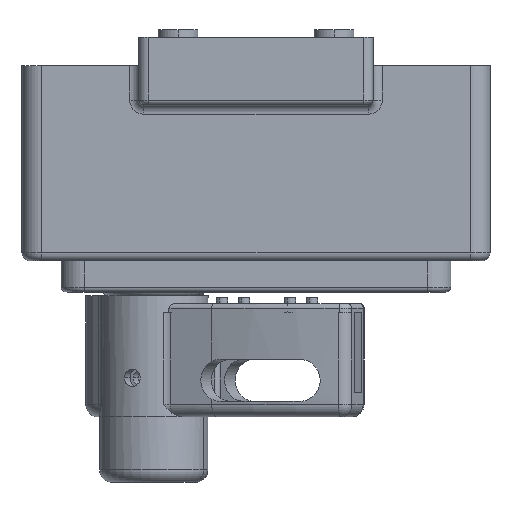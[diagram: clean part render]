
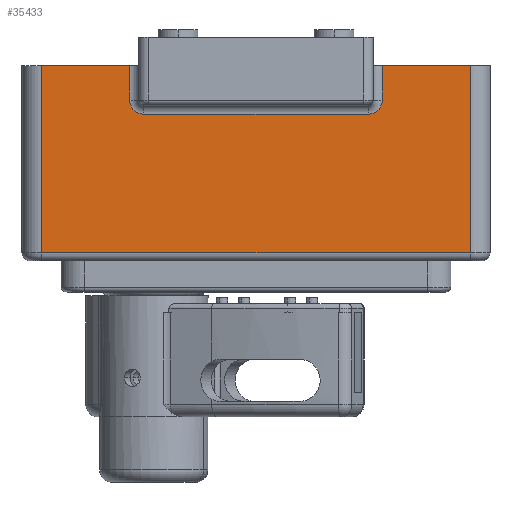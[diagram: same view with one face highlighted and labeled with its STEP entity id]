
A CAD part, front view. The second image highlights one B-rep face of the part: STEP entity #35433.
In plain terms, the highlighted planar face has unit normal (0, -1, 0).
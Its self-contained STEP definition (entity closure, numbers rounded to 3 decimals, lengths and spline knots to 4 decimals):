
#10=DIRECTION('',(-1.,0.,0.));
#11=VECTOR('',#10,0.565);
#12=CARTESIAN_POINT('',(0.69,0.583,1.45));
#13=LINE('',#12,#11);
#108=DIRECTION('',(-1.,0.,0.));
#109=VECTOR('',#108,0.565);
#110=CARTESIAN_POINT('',(2.875,0.583,1.45));
#111=LINE('',#110,#109);
#144=DIRECTION('',(0.,0.,-1.));
#145=VECTOR('',#144,0.22);
#146=CARTESIAN_POINT('',(0.69,0.583,1.45));
#147=LINE('',#146,#145);
#153=CARTESIAN_POINT('',(0.78,0.583,1.23));
#154=DIRECTION('',(0.,-1.,0.));
#155=DIRECTION('',(-1.,0.,0.));
#156=AXIS2_PLACEMENT_3D('',#153,#154,#155);
#168=DIRECTION('',(0.,0.,1.));
#169=VECTOR('',#168,0.22);
#170=CARTESIAN_POINT('',(2.31,0.583,1.23));
#171=LINE('',#170,#169);
#191=CARTESIAN_POINT('',(2.22,0.583,1.23));
#192=DIRECTION('',(0.,1.,0.));
#193=DIRECTION('',(1.,0.,0.));
#194=AXIS2_PLACEMENT_3D('',#191,#192,#193);
#196=DIRECTION('',(1.,0.,0.));
#197=VECTOR('',#196,1.44);
#198=CARTESIAN_POINT('',(0.78,0.583,1.14));
#199=LINE('',#198,#197);
#822=DIRECTION('',(0.,0.,1.));
#823=VECTOR('',#822,1.2);
#824=CARTESIAN_POINT('',(2.875,0.583,0.25));
#825=LINE('',#824,#823);
#24064=DIRECTION('',(0.,0.,1.));
#24065=VECTOR('',#24064,1.2);
#24066=CARTESIAN_POINT('',(0.125,0.583,0.25));
#24067=LINE('',#24066,#24065);
#24087=DIRECTION('',(-1.,0.,0.));
#24088=VECTOR('',#24087,2.75);
#24089=CARTESIAN_POINT('',(2.875,0.583,0.25));
#24090=LINE('',#24089,#24088);
#28605=CARTESIAN_POINT('',(0.125,0.583,1.45));
#28607=VERTEX_POINT('',#28605);
#28616=CARTESIAN_POINT('',(2.875,0.583,1.45));
#28618=VERTEX_POINT('',#28616);
#28650=CARTESIAN_POINT('',(0.125,0.583,0.25));
#28651=VERTEX_POINT('',#28650);
#28654=CARTESIAN_POINT('',(2.875,0.583,0.25));
#28655=VERTEX_POINT('',#28654);
#28716=CARTESIAN_POINT('',(2.31,0.583,1.23));
#28717=CARTESIAN_POINT('',(2.31,0.583,1.45));
#28718=VERTEX_POINT('',#28716);
#28719=VERTEX_POINT('',#28717);
#28724=CARTESIAN_POINT('',(0.78,0.583,1.14));
#28725=CARTESIAN_POINT('',(2.22,0.583,1.14));
#28726=VERTEX_POINT('',#28724);
#28727=VERTEX_POINT('',#28725);
#28732=CARTESIAN_POINT('',(0.69,0.583,1.23));
#28733=VERTEX_POINT('',#28732);
#28738=CARTESIAN_POINT('',(0.69,0.583,1.45));
#28739=VERTEX_POINT('',#28738);
#35410=CARTESIAN_POINT('',(3.,0.583,1.45));
#35411=DIRECTION('',(0.,-1.,0.));
#35412=DIRECTION('',(-1.,0.,0.));
#35413=AXIS2_PLACEMENT_3D('',#35410,#35411,#35412);
#35414=PLANE('',#35413);
#35416=ORIENTED_EDGE('',*,*,#35415,.T.);
#35417=ORIENTED_EDGE('',*,*,#35323,.F.);
#35419=ORIENTED_EDGE('',*,*,#35418,.F.);
#35421=ORIENTED_EDGE('',*,*,#35420,.T.);
#35423=ORIENTED_EDGE('',*,*,#35422,.T.);
#35424=ORIENTED_EDGE('',*,*,#35229,.F.);
#35425=ORIENTED_EDGE('',*,*,#35389,.T.);
#35426=ORIENTED_EDGE('',*,*,#35400,.T.);
#35428=ORIENTED_EDGE('',*,*,#35427,.T.);
#35430=ORIENTED_EDGE('',*,*,#35429,.F.);
#35431=EDGE_LOOP('',(#35416,#35417,#35419,#35421,#35423,#35424,#35425,#35426,
#35428,#35430));
#35432=FACE_OUTER_BOUND('',#35431,.F.);
#35433=ADVANCED_FACE('',(#35432),#35414,.T.);
#157=CIRCLE('',#156,0.09);
#195=CIRCLE('',#194,0.09);
#35229=EDGE_CURVE('',#28739,#28607,#13,.T.);
#35323=EDGE_CURVE('',#28618,#28719,#111,.T.);
#35389=EDGE_CURVE('',#28739,#28733,#147,.T.);
#35400=EDGE_CURVE('',#28733,#28726,#157,.T.);
#35415=EDGE_CURVE('',#28718,#28719,#171,.T.);
#35418=EDGE_CURVE('',#28655,#28618,#825,.T.);
#35420=EDGE_CURVE('',#28655,#28651,#24090,.T.);
#35422=EDGE_CURVE('',#28651,#28607,#24067,.T.);
#35427=EDGE_CURVE('',#28726,#28727,#199,.T.);
#35429=EDGE_CURVE('',#28718,#28727,#195,.T.);
